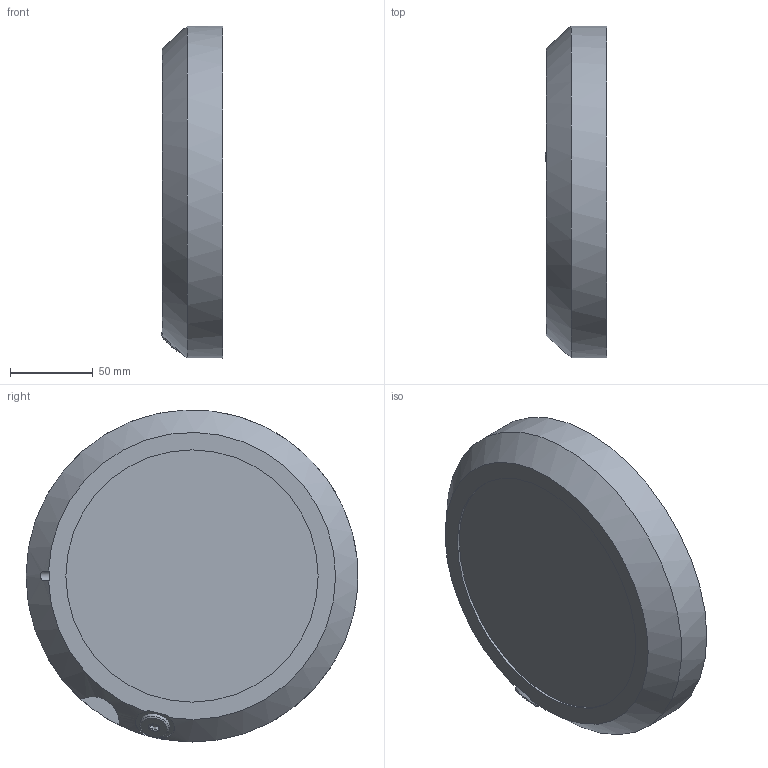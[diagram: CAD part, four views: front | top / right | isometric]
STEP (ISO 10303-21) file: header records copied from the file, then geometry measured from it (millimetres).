
FILE_DESCRIPTION (( 'STEP AP214' ), '1' );
FILE_NAME ('IRB6750S_215kg-390_OC_00_LINK06_CAD.step', '2026-05-13T05:20:35', ( '' ), ( '' ), 'SwSTEP 2.0', 'SolidWorks 2024', '' );
FILE_SCHEMA (( 'AUTOMOTIVE_DESIGN' ));
Length unit declared in the file: millimetre
Products named in the file (1): IRB6750S_215kg-390_OC_00_LINK06_CAD
Bounding box: 37.06 x 200 x 200 mm (x, y, z)
Volume: 817540.2 mm3; surface area: 109061.7 mm2
Topology: 1 solids, 1 shells, 135 faces, 310 edges, 206 vertices
Faces by surface type: cylinder 58, plane 42, cone 31, torus 3, bspline 1
Full cylindrical faces by diameter (mm): 10.2 x11, 12 x1, 13.27 x24, 17.9 x1, 18 x1, 152 x1, 200 x1
Entity records: 5031 total; most frequent: CARTESIAN_POINT 871, DIRECTION 604, ORIENTED_EDGE 408, AXIS2_PLACEMENT_3D 276, EDGE_LOOP 232, EDGE_CURVE 204, FACE_OUTER_BOUND 176, VERTEX_POINT 168
